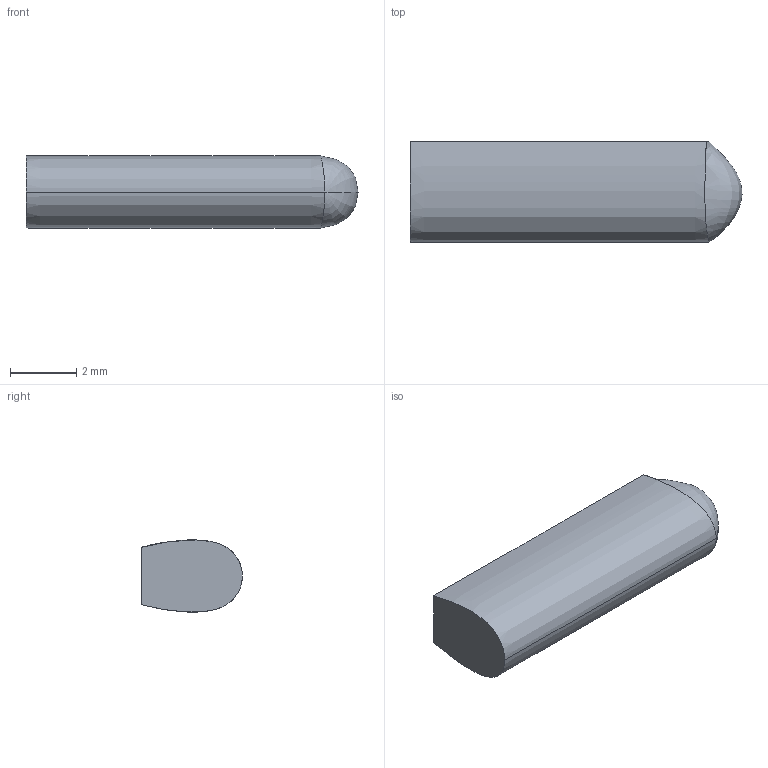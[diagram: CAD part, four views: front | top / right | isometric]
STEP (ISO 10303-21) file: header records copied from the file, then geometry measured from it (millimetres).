
FILE_DESCRIPTION((''),'1');
FILE_NAME('ELEK-ST10-12R','2001-03-30T',('rgoetz'),(''),'PRO/ENGINEER BY PARAMETRIC TECHNOLOGY CORPORATION, 2000350','PRO/ENGINEER BY PARAMETRIC TECHNOLOGY CORPORATION, 2000350','');
FILE_SCHEMA(('CONFIG_CONTROL_DESIGN'));
Length unit declared in the file: millimetre
Products named in the file (1): ELEK-ST10-12R
Bounding box: 10 x 3.03 x 2.18 mm (x, y, z)
Volume: 54.9 mm3; surface area: 95.4 mm2
Topology: 1 solids, 1 shells, 6 faces, 13 edges, 7 vertices
Faces by surface type: plane 2, extrusion 2, bspline 2
Entity records: 571 total; most frequent: CARTESIAN_POINT 430, ORIENTED_EDGE 22, EDGE_CURVE 11, DIRECTION 10, B_SPLINE_CURVE_WITH_KNOTS 9, VERTEX_POINT 7, VECTOR 6, EDGE_LOOP 6
